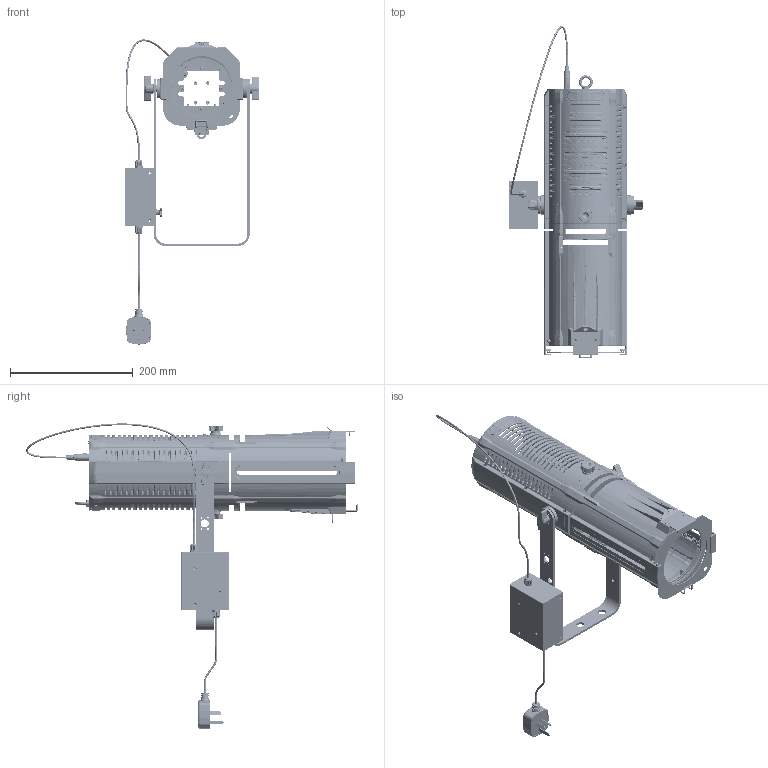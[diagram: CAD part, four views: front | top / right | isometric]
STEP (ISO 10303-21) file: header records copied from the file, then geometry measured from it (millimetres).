
FILE_DESCRIPTION((''),'2;1');
FILE_NAME('200W0001_ASM','2026-05-29T17:27:06',('ALY'),(''),'CREO PARAMETRIC BY PTC INC, 2022164','CREO PARAMETRIC BY PTC INC, 2022164','');
FILE_SCHEMA(('AUTOMOTIVE_DESIGN { 1 0 10303 214 1 1 1 1 }'));
Products named in the file (40): MINI-HP-8250001_ASM; 0002; M3X8-0001; 0003; M3X4-0001; 00; M3X4-0002; 0006; M6X150001; 100; 200; 20002; 10002; M6X20T0001; 000; 0009; M50001; _AF9; M3X6-0001; M4X10-0001; M3X120001; M3X8-0002; M4X8-0001; 0010; M3X5-0001; M5-0001; LOGO00; RT3MPMINI0001; 001; M8X1-25000; 3MM0; RT3FC-BMINI0001; 3MM20; 0011_ASM; GB834-M5X20; 0014; 200W0001_ASM
Assembly tree (75 placements, depth 3):
  200W0001_ASM
    MINI-HP-8250001_ASM
    0002
    M3X8-0001  x4
    0003
    M3X4-0001  x12
    00  x2
    00  x2
    M3X4-0002  x2
    0006  x2
    M6X150001  x2
    100  x2
    200  x2
    00
    20002
    10002
    M6X20T0001  x2
    000
    0009
    M50001
    _AF9
    M3X6-0001  x4
    M4X10-0001  x6
    M3X120001
    M3X8-0002  x4
    M4X8-0001
    0010
    M3X5-0001  x2
    M5-0001
    LOGO00  x2
    RT3MPMINI0001
    0011_ASM
      001
      001
      M8X1-25000  x2
      3MM0
      RT3FC-BMINI0001
      3MM20
    GB834-M5X20
    0014
Bounding box: 219.5 x 541.3 x 497.68 mm (x, y, z)
Volume: 737920.8 mm3; surface area: 738004.7 mm2
Topology: 86 solids, 88 shells, 13664 faces, 37060 edges, 23284 vertices
Faces by surface type: plane 5866, cylinder 3740, bspline 2522, cone 852, torus 454, sphere 168, extrusion 38, revolution 24
Entity records: 469149 total; most frequent: CARTESIAN_POINT 202333, ORIENTED_EDGE 39958, DIRECTION 29465, PRESENTATION_STYLE_ASSIGNMENT 22082, STYLED_ITEM 22065, EDGE_CURVE 19979, CURVE_STYLE 16254, VERTEX_POINT 12570
